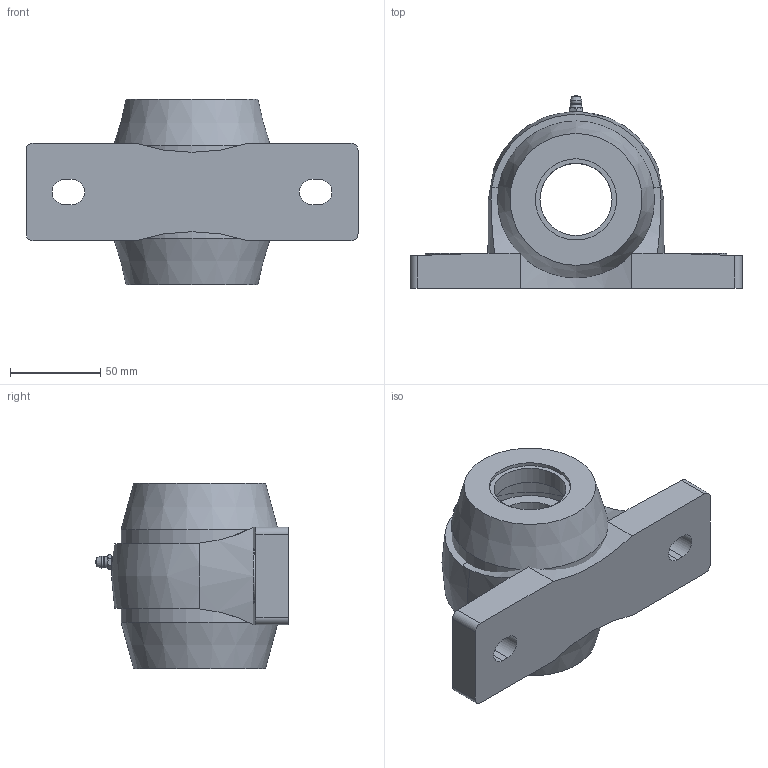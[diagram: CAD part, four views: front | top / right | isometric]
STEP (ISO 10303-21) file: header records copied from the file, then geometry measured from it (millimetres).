
FILE_DESCRIPTION(/* description */ (''),/* implementation_level */ '2;1');
FILE_NAME(/* name */ 'C:\Users\UGijyutu_200702\Desktop\77.プラスチックハウジング\MBPPL200V\MBPPL200VC\MBPPL208VC.stp',/* time_stamp */ '2023-02-10T16:18:11+09:00',/* author */ ('UGijyutu_200702'),/* organization */ (''),/* preprocessor_version */ 'ST-DEVELOPER v18',/* originating_system */ 'Autodesk Inventor 2020',/* authorisation */ '');
FILE_SCHEMA (('AUTOMOTIVE_DESIGN { 1 0 10303 214 3 1 1 }'));
Length unit declared in the file: millimetre
Products named in the file (5): MBPPL208VC; PPL208; MB8 V; 1/4-28UNF-2A; 208C
Assembly tree (5 placements, depth 2):
  MBPPL208VC
    PPL208
    MB8 V
    1/4-28UNF-2A
    208C  x2
Bounding box: 184 x 106.8 x 103 mm (x, y, z)
Volume: 384698.9 mm3; surface area: 121931.4 mm2
Topology: 5 solids, 5 shells, 131 faces, 329 edges, 223 vertices
Faces by surface type: plane 64, cylinder 41, cone 19, sphere 4, torus 2, bspline 1
Full cylindrical faces by diameter (mm): 3.2 x1, 5.359 x1, 6 x2, 6.35 x1, 40 x3, 45 x2, 53 x1, 56 x2, 83 x2, 83.7 x2, 87 x2
Entity records: 4255 total; most frequent: CARTESIAN_POINT 1073, DIRECTION 617, ORIENTED_EDGE 606, EDGE_CURVE 303, AXIS2_PLACEMENT_3D 244, VERTEX_POINT 205, EDGE_LOOP 144, LINE 129
